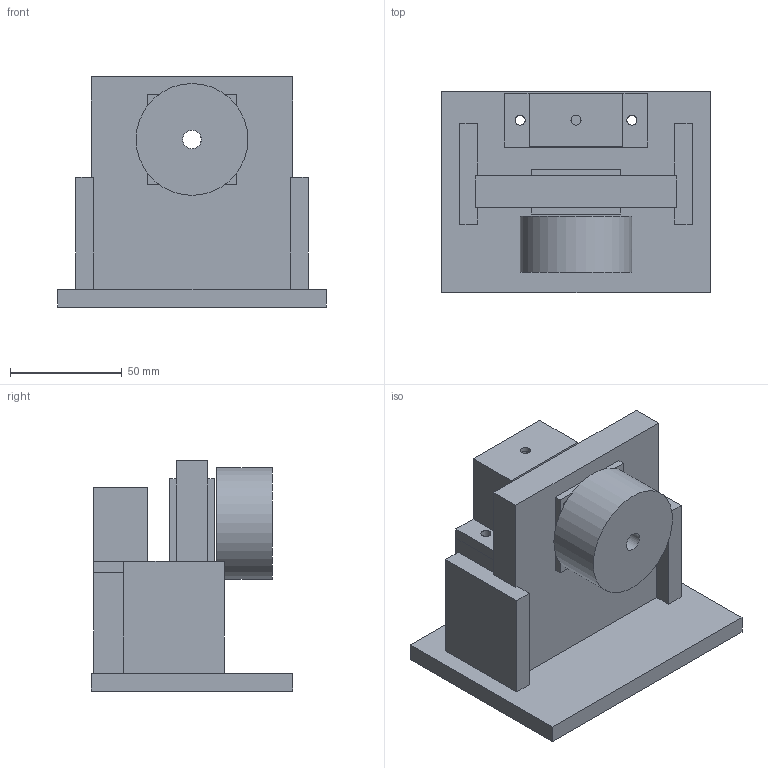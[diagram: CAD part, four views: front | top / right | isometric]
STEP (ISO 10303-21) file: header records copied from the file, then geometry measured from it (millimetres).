
FILE_DESCRIPTION(('Open CASCADE Model'),'2;1');
FILE_NAME('Open CASCADE Shape Model','2026-10-21T16:58:02',('Author'),( 'Open CASCADE'),'Open CASCADE STEP processor 7.9','Open CASCADE 7.9' ,'Unknown');
FILE_SCHEMA(('AUTOMOTIVE_DESIGN { 1 0 10303 214 1 1 1 1 }'));
Length unit declared in the file: millimetre
Products named in the file (8): P08_illustrative; knob_bearing_stand_0; knob_50_1; bearing_retainer_2; bearing_retainer_3; brake_riser_4; friction_brake_block_5; brake_pressure_shoe_6
Assembly tree (7 placements, depth 2):
  P08_illustrative
    knob_bearing_stand_0
    knob_50_1
    bearing_retainer_2
    bearing_retainer_3
    brake_riser_4
    friction_brake_block_5
    brake_pressure_shoe_6
Bounding box: 120 x 90 x 103 mm (x, y, z)
Volume: 394146.7 mm3; surface area: 90898.6 mm2
Topology: 7 solids, 7 shells, 100 faces, 244 edges, 162 vertices
Faces by surface type: plane 69, cylinder 31
Full cylindrical faces by diameter (mm): 3.3 x1, 3.4 x12, 4.5 x7, 8.3 x1, 10.2 x4, 12 x1, 18 x2, 22.2 x1, 50 x1
Entity records: 6942 total; most frequent: CARTESIAN_POINT 1698, DIRECTION 958, LINE 596, VECTOR 596, ORIENTED_EDGE 488, PCURVE 488, DEFINITIONAL_REPRESENTATION 488, EDGE_CURVE 244
